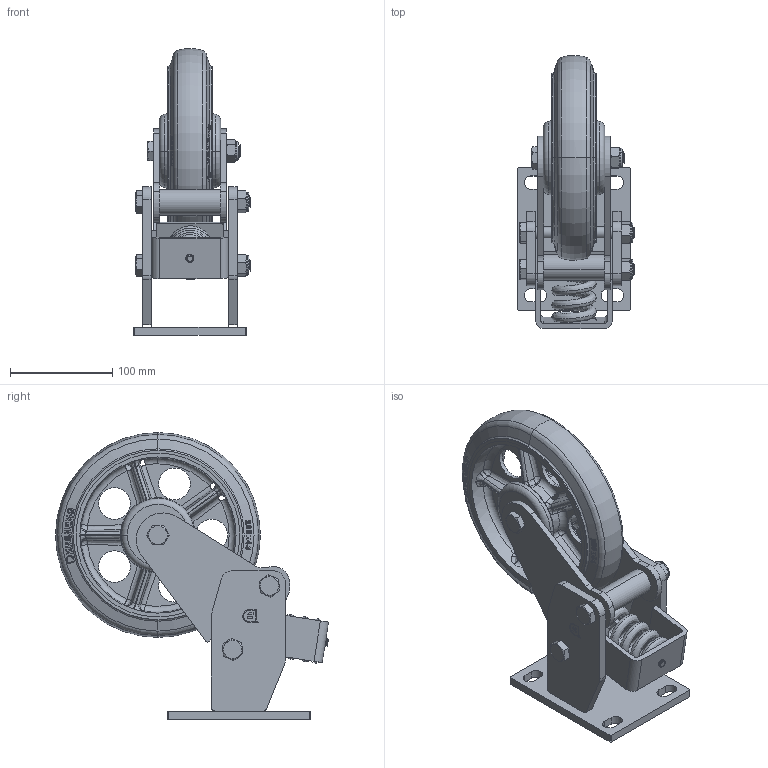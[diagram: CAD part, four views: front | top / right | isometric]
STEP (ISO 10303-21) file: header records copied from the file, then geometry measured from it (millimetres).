
FILE_DESCRIPTION((''),'2;1');
FILE_NAME('PRT0004','2025-09-13T08:45:58',('Administrator'),(''),'CREO PARAMETRIC BY PTC INC, 2022124','CREO PARAMETRIC BY PTC INC, 2022124','');
FILE_SCHEMA(('AUTOMOTIVE_DESIGN { 1 0 10303 214 1 1 1 1 }'));
Products named in the file (1): PRT0004
Bounding box: 114 x 266.49 x 280 mm (x, y, z)
Surface area: 277081.8 mm2 (no closed solid volume)
Topology: 0 solids, 70 shells, 507 faces, 2121 edges, 1640 vertices
Faces by surface type: bspline 181, plane 167, cylinder 72, torus 48, cone 37, extrusion 2
Entity records: 43481 total; most frequent: CARTESIAN_POINT 25260, ORIENTED_EDGE 3086, EDGE_CURVE 2123, DIRECTION 2082, VERTEX_POINT 1642, B_SPLINE_CURVE_WITH_KNOTS 1113, AXIS2_PLACEMENT_3D 731, VECTOR 617
